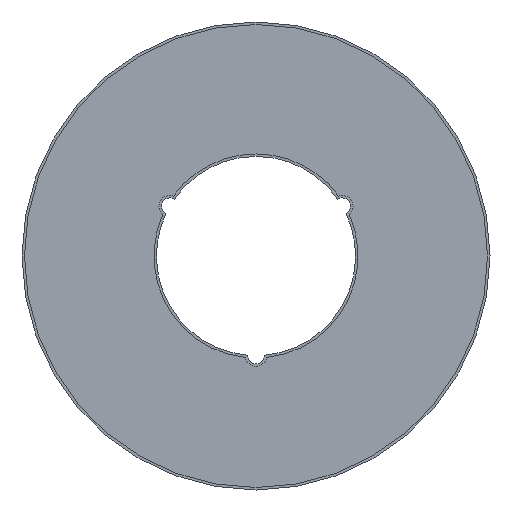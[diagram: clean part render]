
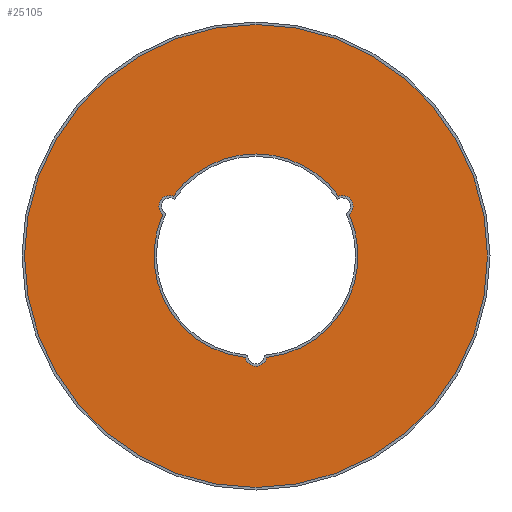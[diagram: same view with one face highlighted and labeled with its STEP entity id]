
A CAD part, front view. The second image highlights one B-rep face of the part: STEP entity #25105.
In plain terms, the highlighted planar face has unit normal (0, -1, 0).
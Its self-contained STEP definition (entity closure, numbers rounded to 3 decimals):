
#149 = CIRCLE ( 'NONE', #10237, 13.95 ) ;
#480 = EDGE_CURVE ( 'NONE', #4968, #1199, #9758, .T. ) ;
#857 = ORIENTED_EDGE ( 'NONE', *, *, #7444, .F. ) ;
#956 = DIRECTION ( 'NONE',  ( 0., 0., -1. ) ) ;
#1014 = ORIENTED_EDGE ( 'NONE', *, *, #3873, .T. ) ;
#1115 = VERTEX_POINT ( 'NONE', #24017 ) ;
#1199 = VERTEX_POINT ( 'NONE', #4553 ) ;
#1361 = VERTEX_POINT ( 'NONE', #16108 ) ;
#1721 = ORIENTED_EDGE ( 'NONE', *, *, #6506, .F. ) ;
#2024 = DIRECTION ( 'NONE',  ( 0., -1., 0. ) ) ;
#2280 = ORIENTED_EDGE ( 'NONE', *, *, #27943, .F. ) ;
#2451 = VERTEX_POINT ( 'NONE', #19232 ) ;
#2883 = DIRECTION ( 'NONE',  ( 0., 0., -1. ) ) ;
#3249 = DIRECTION ( 'NONE',  ( 0., -1., 0. ) ) ;
#3473 = AXIS2_PLACEMENT_3D ( 'NONE', #27345, #4798, #18102 ) ;
#3873 = EDGE_CURVE ( 'NONE', #2451, #12378, #149, .T. ) ;
#3909 = AXIS2_PLACEMENT_3D ( 'NONE', #13629, #22315, #9213 ) ;
#4553 = CARTESIAN_POINT ( 'NONE',  ( 0., -0.035, 6.15 ) ) ;
#4701 = DIRECTION ( 'NONE',  ( 0., -1., 0. ) ) ;
#4798 = DIRECTION ( 'NONE',  ( 0., -1., 0. ) ) ;
#4968 = VERTEX_POINT ( 'NONE', #21819 ) ;
#5054 = DIRECTION ( 'NONE',  ( 0., -1., 0. ) ) ;
#5204 = ORIENTED_EDGE ( 'NONE', *, *, #26124, .T. ) ;
#5863 = EDGE_CURVE ( 'NONE', #1115, #4968, #28546, .T. ) ;
#6116 = EDGE_CURVE ( 'NONE', #13967, #1115, #13061, .T. ) ;
#6164 = FACE_BOUND ( 'NONE', #8294, .T. ) ;
#6409 = AXIS2_PLACEMENT_3D ( 'NONE', #23373, #3249, #20835 ) ;
#6506 = EDGE_CURVE ( 'NONE', #1199, #21422, #17583, .T. ) ;
#6949 = CARTESIAN_POINT ( 'NONE',  ( 0.639, -0.035, -6.117 ) ) ;
#7034 = EDGE_CURVE ( 'NONE', #27401, #12283, #10170, .T. ) ;
#7444 = EDGE_CURVE ( 'NONE', #21422, #1361, #10783, .T. ) ;
#7678 = CIRCLE ( 'NONE', #3473, 6.15 ) ;
#8246 = ORIENTED_EDGE ( 'NONE', *, *, #480, .F. ) ;
#8262 = ORIENTED_EDGE ( 'NONE', *, *, #7034, .F. ) ;
#8294 = EDGE_LOOP ( 'NONE', ( #8262, #11180, #2280, #857, #1721, #8246, #9184, #22131, #28870 ) ) ;
#8951 = DIRECTION ( 'NONE',  ( 0., 0., -1. ) ) ;
#9184 = ORIENTED_EDGE ( 'NONE', *, *, #5863, .F. ) ;
#9213 = DIRECTION ( 'NONE',  ( 0., 0., -1. ) ) ;
#9421 = DIRECTION ( 'NONE',  ( 0., 0., -1. ) ) ;
#9721 = CARTESIAN_POINT ( 'NONE',  ( 0., -0.035, 0. ) ) ;
#9758 = CIRCLE ( 'NONE', #27681, 6.15 ) ;
#10170 = CIRCLE ( 'NONE', #6409, 0.65 ) ;
#10237 = AXIS2_PLACEMENT_3D ( 'NONE', #14290, #5054, #20704 ) ;
#10783 = CIRCLE ( 'NONE', #13743, 0.65 ) ;
#11171 = EDGE_CURVE ( 'NONE', #26339, #27401, #7678, .T. ) ;
#11180 = ORIENTED_EDGE ( 'NONE', *, *, #11171, .F. ) ;
#11469 = CARTESIAN_POINT ( 'NONE',  ( 0., -0.035, 0. ) ) ;
#12133 = CIRCLE ( 'NONE', #24065, 0.65 ) ;
#12221 = CARTESIAN_POINT ( 'NONE',  ( -5.196, -0.035, 3. ) ) ;
#12283 = VERTEX_POINT ( 'NONE', #6949 ) ;
#12378 = VERTEX_POINT ( 'NONE', #25271 ) ;
#12882 = DIRECTION ( 'NONE',  ( 0., 0., -1. ) ) ;
#12936 = CARTESIAN_POINT ( 'NONE',  ( 5.196, -0.035, 3. ) ) ;
#13061 = CIRCLE ( 'NONE', #29045, 0.65 ) ;
#13075 = CARTESIAN_POINT ( 'NONE',  ( -5.196, -0.035, 3. ) ) ;
#13614 = DIRECTION ( 'NONE',  ( 0., 0., -1. ) ) ;
#13629 = CARTESIAN_POINT ( 'NONE',  ( 0., -0.035, 0. ) ) ;
#13743 = AXIS2_PLACEMENT_3D ( 'NONE', #12221, #14397, #956 ) ;
#13836 = CARTESIAN_POINT ( 'NONE',  ( 5.617, -0.035, 2.505 ) ) ;
#13967 = VERTEX_POINT ( 'NONE', #13836 ) ;
#14290 = CARTESIAN_POINT ( 'NONE',  ( 0., -0.035, 0. ) ) ;
#14397 = DIRECTION ( 'NONE',  ( 0., -1., 0. ) ) ;
#15563 = EDGE_CURVE ( 'NONE', #12283, #13967, #20062, .T. ) ;
#15912 = DIRECTION ( 'NONE',  ( 0., -1., 0. ) ) ;
#16108 = CARTESIAN_POINT ( 'NONE',  ( -5.196, -0.035, 3.65 ) ) ;
#16514 = AXIS2_PLACEMENT_3D ( 'NONE', #12936, #21642, #24079 ) ;
#17583 = CIRCLE ( 'NONE', #20241, 6.15 ) ;
#18102 = DIRECTION ( 'NONE',  ( 0., 0., -1. ) ) ;
#18310 = AXIS2_PLACEMENT_3D ( 'NONE', #23001, #23207, #2883 ) ;
#19232 = CARTESIAN_POINT ( 'NONE',  ( 0., -0.035, -13.95 ) ) ;
#19671 = CIRCLE ( 'NONE', #3909, 13.95 ) ;
#20062 = CIRCLE ( 'NONE', #26212, 6.15 ) ;
#20241 = AXIS2_PLACEMENT_3D ( 'NONE', #9721, #27368, #9421 ) ;
#20257 = CARTESIAN_POINT ( 'NONE',  ( 5.196, -0.035, 3. ) ) ;
#20704 = DIRECTION ( 'NONE',  ( 0., 0., -1. ) ) ;
#20835 = DIRECTION ( 'NONE',  ( 0., 0., -1. ) ) ;
#21067 = CARTESIAN_POINT ( 'NONE',  ( -5.617, -0.035, 2.505 ) ) ;
#21422 = VERTEX_POINT ( 'NONE', #28358 ) ;
#21642 = DIRECTION ( 'NONE',  ( 0., -1., 0. ) ) ;
#21815 = EDGE_LOOP ( 'NONE', ( #5204, #1014 ) ) ;
#21819 = CARTESIAN_POINT ( 'NONE',  ( 4.977, -0.035, 3.612 ) ) ;
#22131 = ORIENTED_EDGE ( 'NONE', *, *, #6116, .F. ) ;
#22315 = DIRECTION ( 'NONE',  ( 0., -1., 0. ) ) ;
#22579 = FACE_OUTER_BOUND ( 'NONE', #21815, .T. ) ;
#23001 = CARTESIAN_POINT ( 'NONE',  ( 0., -0.035, 0. ) ) ;
#23207 = DIRECTION ( 'NONE',  ( 0., -1., 0. ) ) ;
#23373 = CARTESIAN_POINT ( 'NONE',  ( 0., -0.035, -6. ) ) ;
#23702 = CARTESIAN_POINT ( 'NONE',  ( 0., -0.035, 0. ) ) ;
#24017 = CARTESIAN_POINT ( 'NONE',  ( 5.196, -0.035, 3.65 ) ) ;
#24065 = AXIS2_PLACEMENT_3D ( 'NONE', #13075, #2024, #12882 ) ;
#24079 = DIRECTION ( 'NONE',  ( 0., 0., -1. ) ) ;
#24684 = PLANE ( 'NONE',  #18310 ) ;
#25105 = ADVANCED_FACE ( 'NONE', ( #22579, #6164 ), #24684, .T. ) ;
#25271 = CARTESIAN_POINT ( 'NONE',  ( 0., -0.035, 13.95 ) ) ;
#25974 = DIRECTION ( 'NONE',  ( 0., -1., 0. ) ) ;
#26088 = CARTESIAN_POINT ( 'NONE',  ( -0.639, -0.035, -6.117 ) ) ;
#26124 = EDGE_CURVE ( 'NONE', #12378, #2451, #19671, .T. ) ;
#26212 = AXIS2_PLACEMENT_3D ( 'NONE', #23702, #25974, #28249 ) ;
#26339 = VERTEX_POINT ( 'NONE', #21067 ) ;
#27345 = CARTESIAN_POINT ( 'NONE',  ( 0., -0.035, 0. ) ) ;
#27368 = DIRECTION ( 'NONE',  ( 0., -1., 0. ) ) ;
#27401 = VERTEX_POINT ( 'NONE', #26088 ) ;
#27681 = AXIS2_PLACEMENT_3D ( 'NONE', #11469, #15912, #8951 ) ;
#27943 = EDGE_CURVE ( 'NONE', #1361, #26339, #12133, .T. ) ;
#28249 = DIRECTION ( 'NONE',  ( 0., 0., -1. ) ) ;
#28358 = CARTESIAN_POINT ( 'NONE',  ( -4.977, -0.035, 3.612 ) ) ;
#28546 = CIRCLE ( 'NONE', #16514, 0.65 ) ;
#28870 = ORIENTED_EDGE ( 'NONE', *, *, #15563, .F. ) ;
#29045 = AXIS2_PLACEMENT_3D ( 'NONE', #20257, #4701, #13614 ) ;
